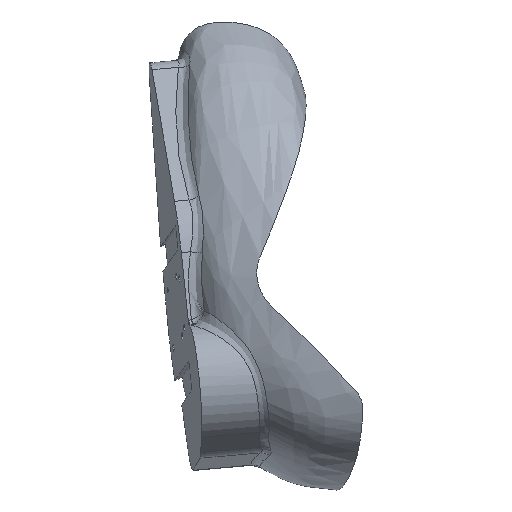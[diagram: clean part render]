
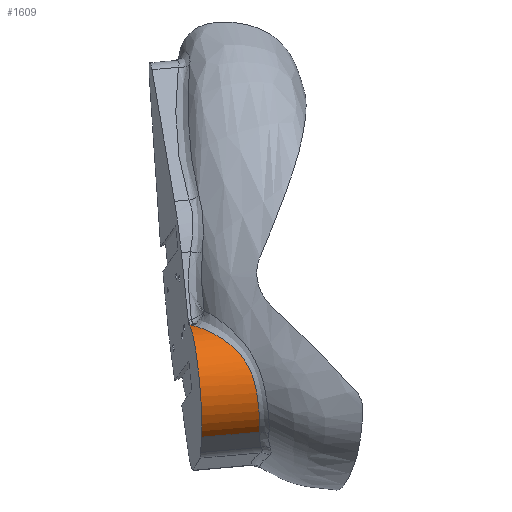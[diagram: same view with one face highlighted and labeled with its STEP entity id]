
A CAD part, left-side view. The second image highlights one B-rep face of the part: STEP entity #1609.
In plain terms, the highlighted cylindrical face has radius 30 mm (diameter 60 mm), a partial arc.
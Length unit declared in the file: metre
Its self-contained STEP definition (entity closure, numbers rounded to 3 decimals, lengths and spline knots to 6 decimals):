
#60=CIRCLE('',#1725,0.03);
#98=CYLINDRICAL_SURFACE('',#1736,0.03);
#175=B_SPLINE_CURVE_WITH_KNOTS('',3,(#4961,#4962,#4963,#4964,#4965,#4966,
#4967,#4968,#4969,#4970,#4971,#4972,#4973,#4974,#4975,#4976,#4977,#4978,
#4979,#4980),.UNSPECIFIED.,.F.,.F.,(4,1,1,1,1,1,1,1,1,1,1,1,1,1,1,1,1,4),
(0.,0.005153,0.010307,0.01546,
0.018037,0.020614,0.025767,0.028344,
0.030921,0.036074,0.041228,0.046381,
0.051535,0.061842,0.066995,0.072148,
0.077302,0.082455),.UNSPECIFIED.);
#467=ORIENTED_EDGE('',*,*,#865,.F.);
#468=ORIENTED_EDGE('',*,*,#866,.T.);
#469=ORIENTED_EDGE('',*,*,#867,.T.);
#470=ORIENTED_EDGE('',*,*,#842,.T.);
#842=EDGE_CURVE('',#1058,#1057,#60,.T.);
#865=EDGE_CURVE('',#1071,#1057,#1179,.T.);
#866=EDGE_CURVE('',#1071,#1072,#175,.T.);
#867=EDGE_CURVE('',#1072,#1058,#1180,.T.);
#1057=VERTEX_POINT('',#4886);
#1058=VERTEX_POINT('',#4888);
#1071=VERTEX_POINT('',#4958);
#1072=VERTEX_POINT('',#4981);
#1179=LINE('',#4959,#1296);
#1180=LINE('',#4982,#1297);
#1296=VECTOR('',#1999,1.);
#1297=VECTOR('',#2002,1.);
#1375=EDGE_LOOP('',(#467,#468,#469,#470));
#1476=FACE_BOUND('',#1375,.T.);
#1609=ADVANCED_FACE('',(#1476),#98,.T.);
#1725=AXIS2_PLACEMENT_3D('',#4887,#1965,#1966);
#1736=AXIS2_PLACEMENT_3D('',#4960,#2000,#2001);
#1965=DIRECTION('',(0.094,-0.992,0.088));
#1966=DIRECTION('',(0.996,0.094,0.));
#1999=DIRECTION('',(-0.094,0.992,-0.088));
#2000=DIRECTION('',(-0.094,0.992,-0.088));
#2001=DIRECTION('',(-0.996,-0.094,0.));
#2002=DIRECTION('',(-0.094,0.992,-0.088));
#4886=CARTESIAN_POINT('',(-0.024743,-0.156808,-0.001672));
#4887=CARTESIAN_POINT('',(-0.009127,-0.153086,0.023671));
#4888=CARTESIAN_POINT('',(-0.011872,-0.150708,0.053451));
#4958=CARTESIAN_POINT('',(-0.022055,-0.185232,0.000845));
#4959=CARTESIAN_POINT('',(-0.01749,-0.233521,0.005122));
#4960=CARTESIAN_POINT('',(-0.001874,-0.2298,0.030466));
#4961=CARTESIAN_POINT('',(-0.022055,-0.185232,0.000845));
#4962=CARTESIAN_POINT('',(-0.023526,-0.185369,0.001772));
#4963=CARTESIAN_POINT('',(-0.026275,-0.185479,0.003835));
#4964=CARTESIAN_POINT('',(-0.029873,-0.185337,0.007607));
#4965=CARTESIAN_POINT('',(-0.032282,-0.185044,0.011194));
#4966=CARTESIAN_POINT('',(-0.033817,-0.184739,0.014254));
#4967=CARTESIAN_POINT('',(-0.035104,-0.184363,0.017477));
#4968=CARTESIAN_POINT('',(-0.035953,-0.183863,0.020778));
#4969=CARTESIAN_POINT('',(-0.036391,-0.183145,0.024111));
#4970=CARTESIAN_POINT('',(-0.036554,-0.18223,0.027484));
#4971=CARTESIAN_POINT('',(-0.036255,-0.180734,0.031485));
#4972=CARTESIAN_POINT('',(-0.035191,-0.178249,0.035975));
#4973=CARTESIAN_POINT('',(-0.033592,-0.175243,0.03987));
#4974=CARTESIAN_POINT('',(-0.030869,-0.170658,0.044369));
#4975=CARTESIAN_POINT('',(-0.027543,-0.165701,0.047769));
#4976=CARTESIAN_POINT('',(-0.023481,-0.160706,0.050406));
#4977=CARTESIAN_POINT('',(-0.020098,-0.157167,0.051939));
#4978=CARTESIAN_POINT('',(-0.016262,-0.153877,0.05304));
#4979=CARTESIAN_POINT('',(-0.013355,-0.15195,0.053413));
#4980=CARTESIAN_POINT('',(-0.011835,-0.151094,0.053485));
#4981=CARTESIAN_POINT('',(-0.011835,-0.151094,0.053485));
#4982=CARTESIAN_POINT('',(-0.004619,-0.227422,0.060245));
